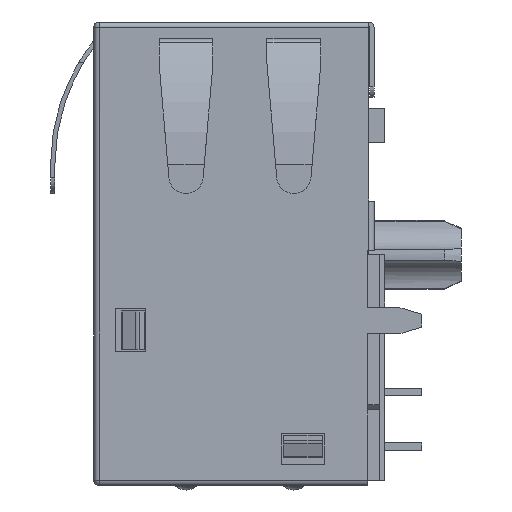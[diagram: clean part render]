
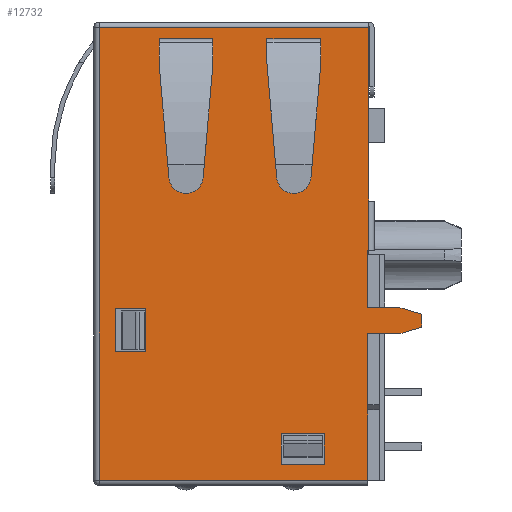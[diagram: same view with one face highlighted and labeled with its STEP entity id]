
A CAD part, left-side view. The second image highlights one B-rep face of the part: STEP entity #12732.
In plain terms, the highlighted planar face has unit normal (-1, 0, 0).
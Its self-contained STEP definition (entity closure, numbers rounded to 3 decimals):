
#1344=DIRECTION('',(0.,0.,1.));
#1345=VECTOR('',#1344,6.8);
#1346=CARTESIAN_POINT('',(-15.5,-5.95,-21.25));
#1347=LINE('',#1346,#1345);
#1348=DIRECTION('',(0.,1.,0.));
#1349=VECTOR('',#1348,12.45);
#1350=CARTESIAN_POINT('',(-15.5,-5.95,-21.25));
#1351=LINE('',#1350,#1349);
#1352=DIRECTION('',(0.,0.,-1.));
#1353=VECTOR('',#1352,21.);
#1354=CARTESIAN_POINT('',(-15.5,6.5,-0.25));
#1355=LINE('',#1354,#1353);
#1356=DIRECTION('',(0.,-1.,0.));
#1357=VECTOR('',#1356,12.5);
#1358=CARTESIAN_POINT('',(-15.5,6.5,-0.25));
#1359=LINE('',#1358,#1357);
#1360=DIRECTION('',(0.,0.,1.));
#1361=VECTOR('',#1360,8.05);
#1362=CARTESIAN_POINT('',(-15.5,-6.,-8.3));
#1363=LINE('',#1362,#1361);
#1364=DIRECTION('',(0.,0.,1.));
#1365=VECTOR('',#1364,2.3);
#1366=CARTESIAN_POINT('',(-15.5,-6.,-10.6));
#1367=LINE('',#1366,#1365);
#1368=DIRECTION('',(0.,-1.,0.));
#1369=VECTOR('',#1368,0.05);
#1370=CARTESIAN_POINT('',(-15.5,-5.95,-10.6));
#1371=LINE('',#1370,#1369);
#1372=DIRECTION('',(0.,0.,1.));
#1373=VECTOR('',#1372,2.65);
#1374=CARTESIAN_POINT('',(-15.5,-5.95,-13.25));
#1375=LINE('',#1374,#1373);
#1376=DIRECTION('',(0.,-0.958,-0.287));
#1377=VECTOR('',#1376,1.044);
#1378=CARTESIAN_POINT('',(-15.5,-7.45,-13.25));
#1379=LINE('',#1378,#1377);
#1380=DIRECTION('',(0.,0.,-1.));
#1381=VECTOR('',#1380,0.6);
#1382=CARTESIAN_POINT('',(-15.5,-8.45,-13.55));
#1383=LINE('',#1382,#1381);
#1384=DIRECTION('',(0.,0.958,-0.287));
#1385=VECTOR('',#1384,1.044);
#1386=CARTESIAN_POINT('',(-15.5,-8.45,-14.15));
#1387=LINE('',#1386,#1385);
#1388=DIRECTION('',(0.,-1.,0.));
#1389=VECTOR('',#1388,1.4);
#1390=CARTESIAN_POINT('',(-15.5,5.75,-13.3));
#1391=LINE('',#1390,#1389);
#1392=DIRECTION('',(0.,0.,1.));
#1393=VECTOR('',#1392,2.);
#1394=CARTESIAN_POINT('',(-15.5,5.75,-15.3));
#1395=LINE('',#1394,#1393);
#1396=DIRECTION('',(0.,1.,0.));
#1397=VECTOR('',#1396,1.4);
#1398=CARTESIAN_POINT('',(-15.5,4.35,-15.3));
#1399=LINE('',#1398,#1397);
#1400=DIRECTION('',(0.,0.,-1.));
#1401=VECTOR('',#1400,2.);
#1402=CARTESIAN_POINT('',(-15.5,4.35,-13.3));
#1403=LINE('',#1402,#1401);
#1404=DIRECTION('',(0.,-1.,0.));
#1405=VECTOR('',#1404,2.);
#1406=CARTESIAN_POINT('',(-15.5,-1.95,-19.1));
#1407=LINE('',#1406,#1405);
#1408=DIRECTION('',(0.,0.,1.));
#1409=VECTOR('',#1408,1.4);
#1410=CARTESIAN_POINT('',(-15.5,-1.95,-20.5));
#1411=LINE('',#1410,#1409);
#1412=DIRECTION('',(0.,1.,0.));
#1413=VECTOR('',#1412,2.);
#1414=CARTESIAN_POINT('',(-15.5,-3.95,-20.5));
#1415=LINE('',#1414,#1413);
#1416=DIRECTION('',(0.,0.,-1.));
#1417=VECTOR('',#1416,1.4);
#1418=CARTESIAN_POINT('',(-15.5,-3.95,-19.1));
#1419=LINE('',#1418,#1417);
#1420=DIRECTION('',(0.,0.,-1.));
#1421=VECTOR('',#1420,0.431);
#1422=CARTESIAN_POINT('',(-15.5,-3.78,-0.776));
#1423=LINE('',#1422,#1421);
#1424=DIRECTION('',(0.,1.,0.));
#1425=VECTOR('',#1424,2.5);
#1426=CARTESIAN_POINT('',(-15.5,-3.78,-0.776));
#1427=LINE('',#1426,#1425);
#1428=DIRECTION('',(0.,0.,-1.));
#1429=VECTOR('',#1428,0.431);
#1430=CARTESIAN_POINT('',(-15.5,-1.28,-0.776));
#1431=LINE('',#1430,#1429);
#1432=DIRECTION('',(0.,1.,0.));
#1433=VECTOR('',#1432,2.5);
#1434=CARTESIAN_POINT('',(-15.5,-3.78,-1.207));
#1435=LINE('',#1434,#1433);
#1436=DIRECTION('',(0.,0.,-1.));
#1437=VECTOR('',#1436,0.431);
#1438=CARTESIAN_POINT('',(-15.5,1.22,-0.776));
#1439=LINE('',#1438,#1437);
#1440=DIRECTION('',(0.,1.,0.));
#1441=VECTOR('',#1440,2.5);
#1442=CARTESIAN_POINT('',(-15.5,1.22,-0.776));
#1443=LINE('',#1442,#1441);
#1444=DIRECTION('',(0.,0.,-1.));
#1445=VECTOR('',#1444,0.431);
#1446=CARTESIAN_POINT('',(-15.5,3.72,-0.776));
#1447=LINE('',#1446,#1445);
#1448=DIRECTION('',(0.,1.,0.));
#1449=VECTOR('',#1448,2.5);
#1450=CARTESIAN_POINT('',(-15.5,1.22,-1.207));
#1451=LINE('',#1450,#1449);
#7158=DIRECTION('',(0.,-1.,0.));
#7159=VECTOR('',#7158,1.5);
#7160=CARTESIAN_POINT('',(-15.5,-5.95,-14.45));
#7161=LINE('',#7160,#7159);
#7182=DIRECTION('',(0.,1.,0.));
#7183=VECTOR('',#7182,1.5);
#7184=CARTESIAN_POINT('',(-15.5,-7.45,-13.25));
#7185=LINE('',#7184,#7183);
#9532=CARTESIAN_POINT('',(-15.5,1.22,-0.776));
#9533=CARTESIAN_POINT('',(-15.5,1.22,-1.207));
#9534=VERTEX_POINT('',#9532);
#9535=VERTEX_POINT('',#9533);
#9536=CARTESIAN_POINT('',(-15.5,3.72,-0.776));
#9537=CARTESIAN_POINT('',(-15.5,3.72,-1.207));
#9538=VERTEX_POINT('',#9536);
#9539=VERTEX_POINT('',#9537);
#9568=CARTESIAN_POINT('',(-15.5,-3.78,-0.776));
#9569=VERTEX_POINT('',#9568);
#9570=CARTESIAN_POINT('',(-15.5,-1.28,-0.776));
#9571=VERTEX_POINT('',#9570);
#9580=CARTESIAN_POINT('',(-15.5,-3.78,-1.207));
#9581=VERTEX_POINT('',#9580);
#9582=CARTESIAN_POINT('',(-15.5,-1.28,-1.207));
#9583=VERTEX_POINT('',#9582);
#9752=CARTESIAN_POINT('',(-15.5,-6.,-8.3));
#9753=VERTEX_POINT('',#9752);
#9786=CARTESIAN_POINT('',(-15.5,-8.45,-13.55));
#9787=CARTESIAN_POINT('',(-15.5,-8.45,-14.15));
#9788=VERTEX_POINT('',#9786);
#9789=VERTEX_POINT('',#9787);
#9790=CARTESIAN_POINT('',(-15.5,-7.45,-14.45));
#9791=VERTEX_POINT('',#9790);
#9792=CARTESIAN_POINT('',(-15.5,-7.45,-13.25));
#9793=VERTEX_POINT('',#9792);
#9814=CARTESIAN_POINT('',(-15.5,6.5,-0.25));
#9815=CARTESIAN_POINT('',(-15.5,6.5,-21.25));
#9816=VERTEX_POINT('',#9814);
#9817=VERTEX_POINT('',#9815);
#9849=CARTESIAN_POINT('',(-15.5,-6.,-0.25));
#9851=VERTEX_POINT('',#9849);
#10370=CARTESIAN_POINT('',(-15.5,-1.95,-19.1));
#10371=VERTEX_POINT('',#10370);
#10372=CARTESIAN_POINT('',(-15.5,-3.95,-19.1));
#10373=VERTEX_POINT('',#10372);
#10374=CARTESIAN_POINT('',(-15.5,-3.95,-20.5));
#10375=VERTEX_POINT('',#10374);
#10376=CARTESIAN_POINT('',(-15.5,-1.95,-20.5));
#10377=VERTEX_POINT('',#10376);
#10378=CARTESIAN_POINT('',(-15.5,5.75,-13.3));
#10379=VERTEX_POINT('',#10378);
#10380=CARTESIAN_POINT('',(-15.5,4.35,-13.3));
#10381=VERTEX_POINT('',#10380);
#10382=CARTESIAN_POINT('',(-15.5,4.35,-15.3));
#10383=VERTEX_POINT('',#10382);
#10384=CARTESIAN_POINT('',(-15.5,5.75,-15.3));
#10385=VERTEX_POINT('',#10384);
#10968=CARTESIAN_POINT('',(-15.5,-5.95,-21.25));
#10969=CARTESIAN_POINT('',(-15.5,-5.95,-14.45));
#10970=VERTEX_POINT('',#10968);
#10971=VERTEX_POINT('',#10969);
#10972=CARTESIAN_POINT('',(-15.5,-5.95,-13.25));
#10973=CARTESIAN_POINT('',(-15.5,-5.95,-10.6));
#10974=VERTEX_POINT('',#10972);
#10975=VERTEX_POINT('',#10973);
#10976=CARTESIAN_POINT('',(-15.5,-6.,-10.6));
#10977=VERTEX_POINT('',#10976);
#12662=CARTESIAN_POINT('',(-15.5,6.75,0.));
#12663=DIRECTION('',(-1.,0.,0.));
#12664=DIRECTION('',(0.,-1.,0.));
#12665=AXIS2_PLACEMENT_3D('',#12662,#12663,#12664);
#12666=PLANE('',#12665);
#12668=ORIENTED_EDGE('',*,*,#12667,.F.);
#12670=ORIENTED_EDGE('',*,*,#12669,.T.);
#12672=ORIENTED_EDGE('',*,*,#12671,.F.);
#12674=ORIENTED_EDGE('',*,*,#12673,.T.);
#12675=ORIENTED_EDGE('',*,*,#12466,.F.);
#12676=ORIENTED_EDGE('',*,*,#12654,.F.);
#12677=ORIENTED_EDGE('',*,*,#12550,.F.);
#12679=ORIENTED_EDGE('',*,*,#12678,.F.);
#12681=ORIENTED_EDGE('',*,*,#12680,.F.);
#12683=ORIENTED_EDGE('',*,*,#12682,.T.);
#12685=ORIENTED_EDGE('',*,*,#12684,.T.);
#12687=ORIENTED_EDGE('',*,*,#12686,.T.);
#12689=ORIENTED_EDGE('',*,*,#12688,.F.);
#12690=EDGE_LOOP('',(#12668,#12670,#12672,#12674,#12675,#12676,#12677,#12679,
#12681,#12683,#12685,#12687,#12689));
#12691=FACE_OUTER_BOUND('',#12690,.F.);
#12693=ORIENTED_EDGE('',*,*,#12692,.F.);
#12695=ORIENTED_EDGE('',*,*,#12694,.F.);
#12697=ORIENTED_EDGE('',*,*,#12696,.F.);
#12699=ORIENTED_EDGE('',*,*,#12698,.F.);
#12700=EDGE_LOOP('',(#12693,#12695,#12697,#12699));
#12701=FACE_BOUND('',#12700,.F.);
#12703=ORIENTED_EDGE('',*,*,#12702,.F.);
#12705=ORIENTED_EDGE('',*,*,#12704,.F.);
#12707=ORIENTED_EDGE('',*,*,#12706,.F.);
#12709=ORIENTED_EDGE('',*,*,#12708,.F.);
#12710=EDGE_LOOP('',(#12703,#12705,#12707,#12709));
#12711=FACE_BOUND('',#12710,.F.);
#12713=ORIENTED_EDGE('',*,*,#12712,.F.);
#12715=ORIENTED_EDGE('',*,*,#12714,.T.);
#12717=ORIENTED_EDGE('',*,*,#12716,.T.);
#12719=ORIENTED_EDGE('',*,*,#12718,.F.);
#12720=EDGE_LOOP('',(#12713,#12715,#12717,#12719));
#12721=FACE_BOUND('',#12720,.F.);
#12723=ORIENTED_EDGE('',*,*,#12722,.F.);
#12725=ORIENTED_EDGE('',*,*,#12724,.T.);
#12727=ORIENTED_EDGE('',*,*,#12726,.T.);
#12729=ORIENTED_EDGE('',*,*,#12728,.F.);
#12730=EDGE_LOOP('',(#12723,#12725,#12727,#12729));
#12731=FACE_BOUND('',#12730,.F.);
#12466=EDGE_CURVE('',#9753,#9851,#1363,.T.);
#12550=EDGE_CURVE('',#10975,#10977,#1371,.T.);
#12654=EDGE_CURVE('',#10977,#9753,#1367,.T.);
#12667=EDGE_CURVE('',#10970,#10971,#1347,.T.);
#12669=EDGE_CURVE('',#10970,#9817,#1351,.T.);
#12671=EDGE_CURVE('',#9816,#9817,#1355,.T.);
#12673=EDGE_CURVE('',#9816,#9851,#1359,.T.);
#12678=EDGE_CURVE('',#10974,#10975,#1375,.T.);
#12680=EDGE_CURVE('',#9793,#10974,#7185,.T.);
#12682=EDGE_CURVE('',#9793,#9788,#1379,.T.);
#12684=EDGE_CURVE('',#9788,#9789,#1383,.T.);
#12686=EDGE_CURVE('',#9789,#9791,#1387,.T.);
#12688=EDGE_CURVE('',#10971,#9791,#7161,.T.);
#12692=EDGE_CURVE('',#10379,#10381,#1391,.T.);
#12694=EDGE_CURVE('',#10385,#10379,#1395,.T.);
#12696=EDGE_CURVE('',#10383,#10385,#1399,.T.);
#12698=EDGE_CURVE('',#10381,#10383,#1403,.T.);
#12702=EDGE_CURVE('',#10371,#10373,#1407,.T.);
#12704=EDGE_CURVE('',#10377,#10371,#1411,.T.);
#12706=EDGE_CURVE('',#10375,#10377,#1415,.T.);
#12708=EDGE_CURVE('',#10373,#10375,#1419,.T.);
#12712=EDGE_CURVE('',#9569,#9581,#1423,.T.);
#12714=EDGE_CURVE('',#9569,#9571,#1427,.T.);
#12716=EDGE_CURVE('',#9571,#9583,#1431,.T.);
#12718=EDGE_CURVE('',#9581,#9583,#1435,.T.);
#12722=EDGE_CURVE('',#9534,#9535,#1439,.T.);
#12724=EDGE_CURVE('',#9534,#9538,#1443,.T.);
#12726=EDGE_CURVE('',#9538,#9539,#1447,.T.);
#12728=EDGE_CURVE('',#9535,#9539,#1451,.T.);
#12732=ADVANCED_FACE('',(#12691,#12701,#12711,#12721,#12731),#12666,.T.);
